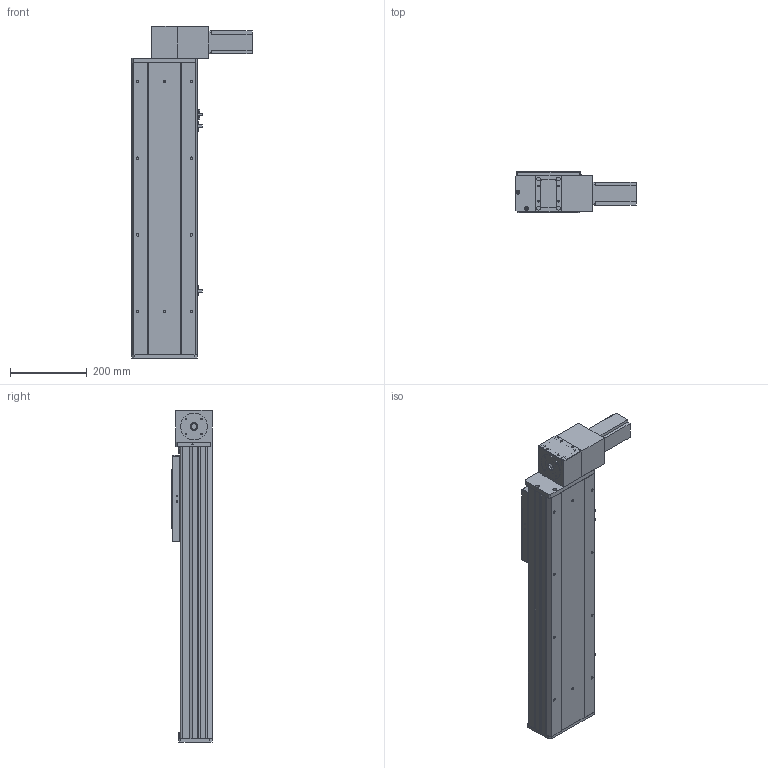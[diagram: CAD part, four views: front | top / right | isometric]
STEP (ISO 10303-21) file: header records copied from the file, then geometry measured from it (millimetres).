
FILE_DESCRIPTION (( 'STEP AP203' ), '1' );
FILE_NAME ('Y170CB-D105-S450-BD-P400W.STEP', '2020-02-20T08:17:30', ( '微软用户' ), ( '微软中国' ), 'SwSTEP 2.0', 'SolidWorks 2017', '' );
FILE_SCHEMA (( 'CONFIG_CONTROL_DESIGN' ));
Length unit declared in the file: millimetre
Products named in the file (16): 70CB-掛极-; Y170CB-陔俋离換覜結え---; --70CB --喘謫眊楊擘啣-; Y1埴倛裔; 70CB-耜裔啣-; 70B喘謫眊----; 70C--詩湍揤踡え-; 0B薊粣ん眊-400W--; 70CB--耜裔; Y170CB-D105-S450-BD-P400W; 70C-雄赽釱-奻-; 0C--雄赽釱俋欶-170; B-源倛裔啣; 70CB-詩湍--; san松下电机400不带刹车----; Y100-135俋离換覜ん--
Assembly tree (19 placements, depth 2):
  Y170CB-D105-S450-BD-P400W
    B-源倛裔啣
    san松下电机400不带刹车----
    70CB-掛极-
    --70CB --喘謫眊楊擘啣-
    70CB-耜裔啣-  x2
    70C--詩湍揤踡え-  x2
    70CB--耜裔
    70C-雄赽釱-奻-
    0C--雄赽釱俋欶-170
    70CB-詩湍--
    Y100-135俋离換覜ん--  x3
    Y170CB-陔俋离換覜結え---
    Y1埴倛裔
    70B喘謫眊----
    0B薊粣ん眊-400W--
Bounding box: 313.5 x 107 x 866 mm (x, y, z)
Volume: 4661675.1 mm3; surface area: 1527233.8 mm2
Topology: 19 solids, 19 shells, 896 faces, 2354 edges, 1560 vertices
Faces by surface type: cylinder 450, plane 422, cone 24
Entity records: 27843 total; most frequent: CARTESIAN_POINT 5146, DIRECTION 4527, ORIENTED_EDGE 4190, EDGE_CURVE 2095, AXIS2_PLACEMENT_3D 1661, VERTEX_POINT 1390, VECTOR 1205, LINE 1205
